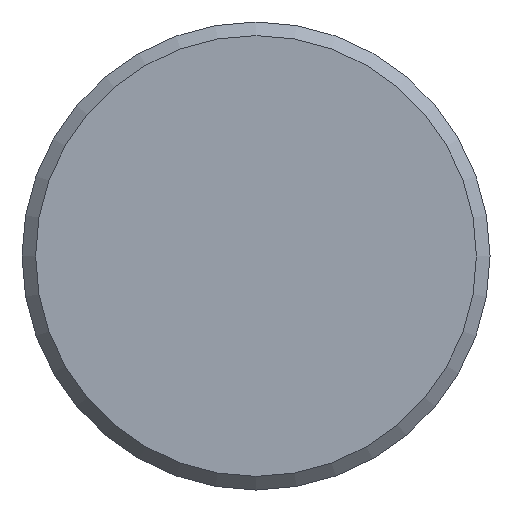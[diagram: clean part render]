
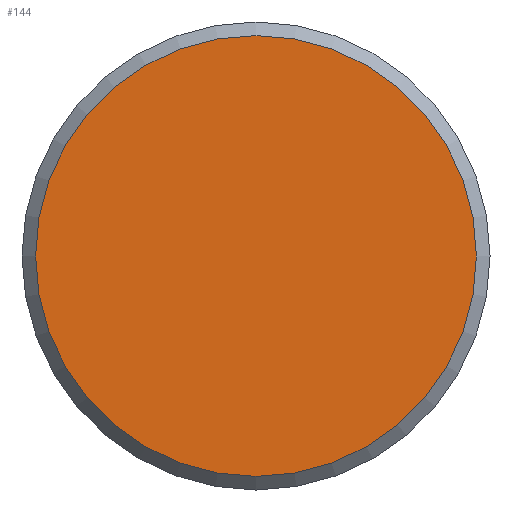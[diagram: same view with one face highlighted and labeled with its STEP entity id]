
A CAD part, left-side view. The second image highlights one B-rep face of the part: STEP entity #144.
In plain terms, the highlighted planar face has unit normal (-1, 0, 0).
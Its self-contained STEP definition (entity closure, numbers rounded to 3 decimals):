
#15=PLANE($,#168);
#40=FACE_OUTER_BOUND($,#58,.T.);
#58=EDGE_LOOP($,(#113));
#71=CIRCLE($,#164,2.057);
#82=VERTEX_POINT($,#242);
#93=EDGE_CURVE($,#82,#82,#71,.T.);
#113=ORIENTED_EDGE($,*,*,#93,.F.);
#144=ADVANCED_FACE($,(#40),#15,.T.);
#164=AXIS2_PLACEMENT_3D($,#243,#202,#203);
#168=AXIS2_PLACEMENT_3D($,#249,#210,#211);
#202=DIRECTION('center_axis',(1.,0.,0.));
#203=DIRECTION('ref_axis',(0.,-1.,0.));
#210=DIRECTION('center_axis',(-1.,0.,0.));
#211=DIRECTION('ref_axis',(0.,0.,1.));
#242=CARTESIAN_POINT('',(-18.526,5.932,0.));
#243=CARTESIAN_POINT('Origin',(-18.526,3.874,0.));
#249=CARTESIAN_POINT('Origin',(-18.526,4.967,0.));
